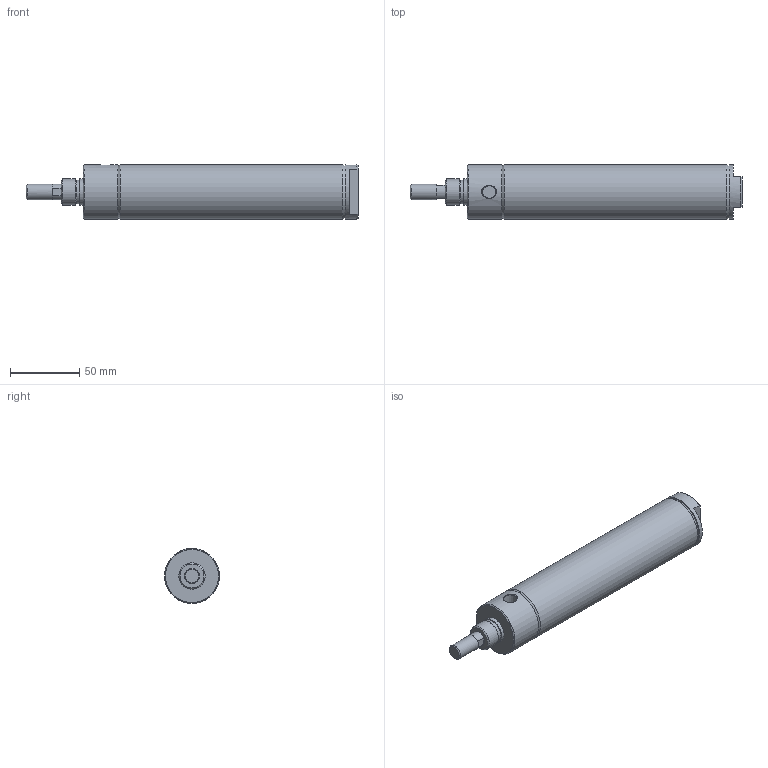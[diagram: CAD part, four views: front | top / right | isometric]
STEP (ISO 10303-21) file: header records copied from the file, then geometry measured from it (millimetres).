
FILE_DESCRIPTION( ( 'STEP AP214' ), '1' );
FILE_NAME( 'p:/temp/worker_521/temp/exporttempdir_5020_260_aQFab/format_0/1500D01-05A-03.stp', '2020-05-07T18:30:57', ( 'License CC BY-ND 4.0' ), ( 'CADENAS' ), ' ', 'PARTsolutions', ' ' );
FILE_SCHEMA( ( 'AUTOMOTIVE_DESIGN { 1 0 10303 214 1 1 1 1 }' ) );
Length unit declared in the file: inch
Products named in the file (3): 1500D01-05A-03; _1500D01-05A-0300A00A0b; _1500D01-05A-030r
Assembly tree (2 placements, depth 2):
  1500D01-05A-03
    _1500D01-05A-0300A00A0b
    _1500D01-05A-030r
Bounding box: 239.73 x 39.73 x 39.73 mm (x, y, z)
Volume: 115959.5 mm3; surface area: 64801.4 mm2
Topology: 2 solids, 2 shells, 50 faces, 96 edges, 60 vertices
Faces by surface type: plane 26, cone 12, cylinder 12
Full cylindrical faces by diameter (mm): 11.112 x1, 11.125 x3, 17.178 x1, 19.025 x1, 19.05 x1, 38.1 x2, 39.7 x2, 39.726 x1
Entity records: 1653 total; most frequent: CARTESIAN_POINT 265, DIRECTION 216, ORIENTED_EDGE 140, AXIS2_PLACEMENT_3D 98, EDGE_LOOP 82, EDGE_CURVE 70, FACE_OUTER_BOUND 62, VERTEX_POINT 56
